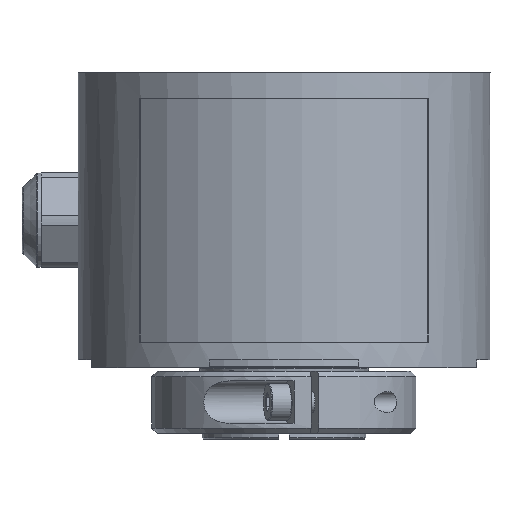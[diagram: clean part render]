
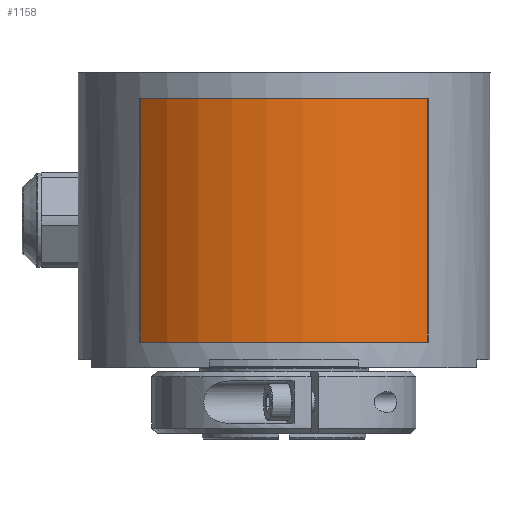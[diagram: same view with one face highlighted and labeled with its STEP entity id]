
A CAD part, front view. The second image highlights one B-rep face of the part: STEP entity #1158.
In plain terms, the highlighted cylindrical face has radius 39.2 mm (diameter 78.4 mm), a partial arc.
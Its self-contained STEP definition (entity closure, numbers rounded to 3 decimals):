
#1056 = VERTEX_POINT ( 'NONE', #5977 ) ;
#1096 = EDGE_CURVE ( 'NONE', #1116, #1119, #6182, .T. ) ;
#1097 = EDGE_CURVE ( 'NONE', #1056, #1120, #6218, .T. ) ;
#1102 = ORIENTED_EDGE ( 'NONE', *, *, #1111, .F. ) ;
#1111 = EDGE_CURVE ( 'NONE', #1119, #1120, #6288, .T. ) ;
#1112 = EDGE_LOOP ( 'NONE', ( #1160, #1159, #1163, #1102 ) ) ;
#1116 = VERTEX_POINT ( 'NONE', #6279 ) ;
#1117 = EDGE_CURVE ( 'NONE', #1116, #1056, #6310, .T. ) ;
#1119 = VERTEX_POINT ( 'NONE', #6300 ) ;
#1120 = VERTEX_POINT ( 'NONE', #6278 ) ;
#1158 = ADVANCED_FACE ( 'NONE', ( #6448 ), #6428, .T. ) ;
#1159 = ORIENTED_EDGE ( 'NONE', *, *, #1117, .T. ) ;
#1160 = ORIENTED_EDGE ( 'NONE', *, *, #1096, .F. ) ;
#1163 = ORIENTED_EDGE ( 'NONE', *, *, #1097, .T. ) ;
#5977 = CARTESIAN_POINT ( 'NONE',  ( -28.308, -33.101, 42.312 ) ) ;
#6182 = LINE ( 'NONE', #6204, #6222 ) ;
#6203 = DIRECTION ( 'NONE',  ( 0., 0., -1. ) ) ;
#6204 = CARTESIAN_POINT ( 'NONE',  ( 26.154, -33.101, 42.312 ) ) ;
#6215 = DIRECTION ( 'NONE',  ( 0., 0., -1. ) ) ;
#6216 = VECTOR ( 'NONE', #6215, 1000. ) ;
#6217 = CARTESIAN_POINT ( 'NONE',  ( -28.308, -33.101, 42.312 ) ) ;
#6218 = LINE ( 'NONE', #6217, #6216 ) ;
#6222 = VECTOR ( 'NONE', #6203, 1000. ) ;
#6256 = AXIS2_PLACEMENT_3D ( 'NONE', #6276, #6275, #6274 ) ;
#6274 = DIRECTION ( 'NONE',  ( -1., 0., 0. ) ) ;
#6275 = DIRECTION ( 'NONE',  ( 0., 0., -1. ) ) ;
#6276 = CARTESIAN_POINT ( 'NONE',  ( -1.077, -4.903, -3.688 ) ) ;
#6278 = CARTESIAN_POINT ( 'NONE',  ( -28.308, -33.101, -3.688 ) ) ;
#6279 = CARTESIAN_POINT ( 'NONE',  ( 26.154, -33.101, 42.312 ) ) ;
#6288 = CIRCLE ( 'NONE', #6256, 39.2 ) ;
#6300 = CARTESIAN_POINT ( 'NONE',  ( 26.154, -33.101, -3.688 ) ) ;
#6301 = DIRECTION ( 'NONE',  ( -1., 0., 0. ) ) ;
#6302 = DIRECTION ( 'NONE',  ( 0., 0., -1. ) ) ;
#6303 = CARTESIAN_POINT ( 'NONE',  ( -1.077, -4.903, 42.312 ) ) ;
#6304 = AXIS2_PLACEMENT_3D ( 'NONE', #6303, #6302, #6301 ) ;
#6310 = CIRCLE ( 'NONE', #6304, 39.2 ) ;
#6382 = AXIS2_PLACEMENT_3D ( 'NONE', #6442, #6449, #6431 ) ;
#6428 = CYLINDRICAL_SURFACE ( 'NONE', #6382, 39.2 ) ;
#6431 = DIRECTION ( 'NONE',  ( -1., 0., 0. ) ) ;
#6442 = CARTESIAN_POINT ( 'NONE',  ( -1.077, -4.903, 29.159 ) ) ;
#6448 = FACE_OUTER_BOUND ( 'NONE', #1112, .T. ) ;
#6449 = DIRECTION ( 'NONE',  ( 0., 0., -1. ) ) ;
